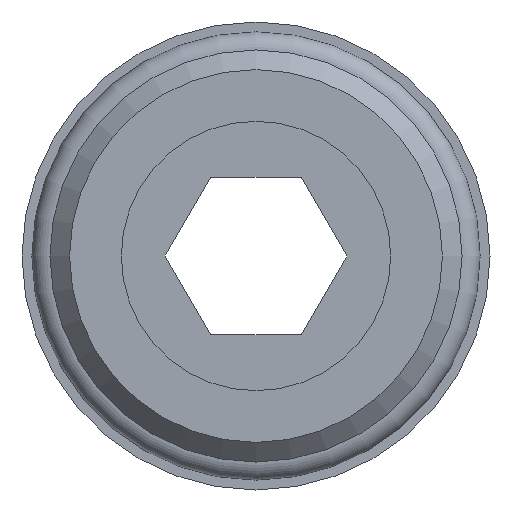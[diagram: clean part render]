
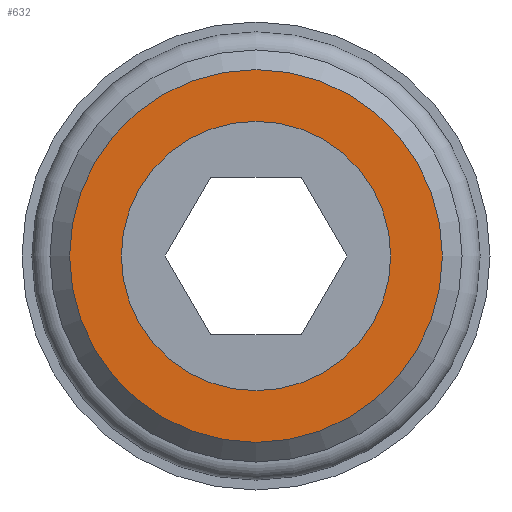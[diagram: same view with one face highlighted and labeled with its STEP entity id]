
A CAD part, front view. The second image highlights one B-rep face of the part: STEP entity #632.
In plain terms, the highlighted planar face has unit normal (0, -1, 0).
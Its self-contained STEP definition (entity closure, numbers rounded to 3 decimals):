
#28=FACE_BOUND('',#201,.T.);
#37=PLANE('',#708);
#160=FACE_OUTER_BOUND('',#200,.T.);
#200=EDGE_LOOP('',(#471));
#201=EDGE_LOOP('',(#472,#473));
#252=CIRCLE('',#702,9.478);
#257=CIRCLE('',#709,6.85);
#258=CIRCLE('',#710,6.85);
#292=VERTEX_POINT('',#999);
#297=VERTEX_POINT('',#1013);
#298=VERTEX_POINT('',#1014);
#359=EDGE_CURVE('',#292,#292,#252,.T.);
#366=EDGE_CURVE('',#297,#298,#257,.T.);
#367=EDGE_CURVE('',#298,#297,#258,.T.);
#471=ORIENTED_EDGE('',*,*,#359,.F.);
#472=ORIENTED_EDGE('',*,*,#366,.F.);
#473=ORIENTED_EDGE('',*,*,#367,.F.);
#632=ADVANCED_FACE('',(#160,#28),#37,.T.);
#702=AXIS2_PLACEMENT_3D('',#1000,#805,#806);
#708=AXIS2_PLACEMENT_3D('',#1012,#819,#820);
#709=AXIS2_PLACEMENT_3D('',#1015,#821,#822);
#710=AXIS2_PLACEMENT_3D('',#1016,#823,#824);
#805=DIRECTION('center_axis',(0.,1.,0.));
#806=DIRECTION('ref_axis',(-1.,0.,0.));
#819=DIRECTION('center_axis',(0.,-1.,0.));
#820=DIRECTION('ref_axis',(0.,0.,-1.));
#821=DIRECTION('center_axis',(0.,-1.,0.));
#822=DIRECTION('ref_axis',(1.,0.,0.));
#823=DIRECTION('center_axis',(0.,-1.,0.));
#824=DIRECTION('ref_axis',(1.,0.,0.));
#999=CARTESIAN_POINT('',(9.478,0.,0.));
#1000=CARTESIAN_POINT('Origin',(0.,0.,0.));
#1012=CARTESIAN_POINT('Origin',(6.85,0.,0.));
#1013=CARTESIAN_POINT('',(6.85,0.,0.));
#1014=CARTESIAN_POINT('',(-6.85,0.,0.));
#1015=CARTESIAN_POINT('Origin',(0.,0.,0.));
#1016=CARTESIAN_POINT('Origin',(0.,0.,0.));
